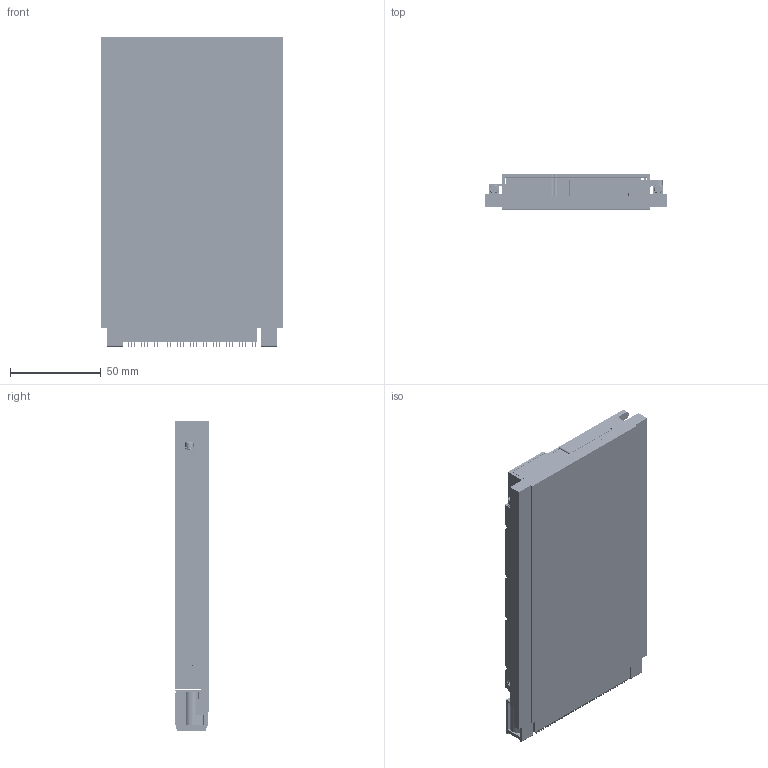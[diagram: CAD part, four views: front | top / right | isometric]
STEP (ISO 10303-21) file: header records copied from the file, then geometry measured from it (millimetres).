
FILE_DESCRIPTION (( 'STEP AP203' ), '1' );
FILE_NAME ('3U-VPX48.2-PS-265-82880.step', '2018-06-15T20:59:42', ( '' ), ( '' ), 'SwSTEP 2.0', 'SolidWorks 2014', '' );
FILE_SCHEMA (( 'CONFIG_CONTROL_DESIGN' ));
Products named in the file (1): 3U-VPX48.2-PS-265-82880
Bounding box: 100 x 19.27 x 170.75 mm (x, y, z)
Volume: 255779.4 mm3; surface area: 219054.9 mm2
Topology: 300 solids, 300 shells, 21624 faces, 60750 edges, 39391 vertices
Faces by surface type: plane 17806, cylinder 2659, bspline 1000, cone 158, torus 1
Entity records: 738561 total; most frequent: CARTESIAN_POINT 189789, ORIENTED_EDGE 117844, DIRECTION 104580, EDGE_CURVE 58922, VECTOR 50956, LINE 50956, VERTEX_POINT 39391, AXIS2_PLACEMENT_3D 26812
